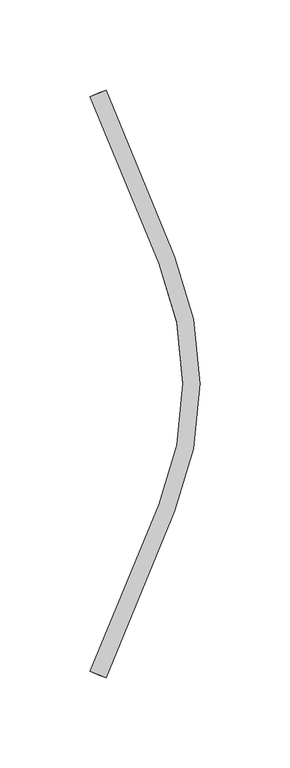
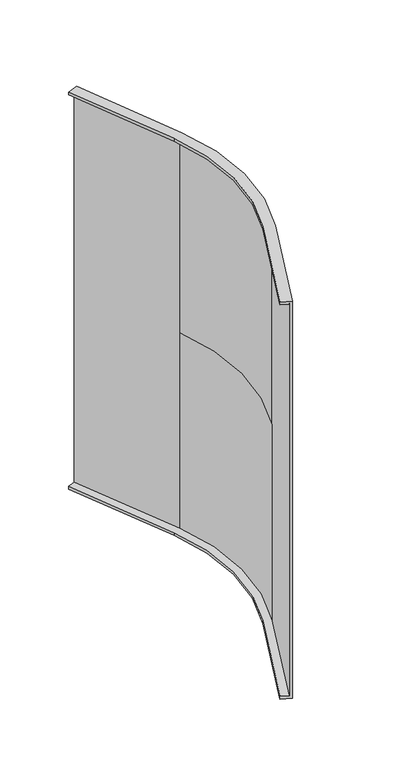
"""IFC4 building model written with IfcOpenShell, lengths in millimetres: cable carrier fitting geometry, CCT_Hyperline_FBTR-ERS45-CVR Крышка на угол 45° внешний (вниз) для оптического лотка : Крышка на угол 45° внешний (вниз) для оптического лотка."""

import ifcopenshell
import ifcopenshell.guid

model = None  # the IFC model being written
_history = None  # IfcOwnerHistory: only IFC2X3 demands one
_inside = {}  # id of a spatial element -> (the spatial element, [elements in it])
_under = {}  # id of a project, library or spatial element -> (it, [spatial elements below it])
_declared = {}  # id of a project -> (the project, [libraries it declares])
_typed = {}  # id of a type object -> (the type object, [elements of that type])
_made_of = {}  # id of a material, layer set ... -> (it, [elements and type objects made of it])


def new_model(schema):
    """Start an empty IFC model of exactly this schema.

    Asked for "IFC4X3", IfcOpenShell would pick the latest addendum, in which some entities
    have other attributes; the version numbers below select the first issue.
    IFC2X3 requires an IfcOwnerHistory on every rooted entity: one is made here for all.
    """
    global model, _history
    if schema == "IFC4X3":
        model = ifcopenshell.file(schema_version=(4, 3, 0, 0))
    else:
        model = ifcopenshell.file(schema=schema)
    _inside.clear()
    _under.clear()
    _declared.clear()
    _typed.clear()
    _made_of.clear()
    _history = None
    if model.schema == "IFC2X3":
        org = make("IfcOrganization", Name="unknown")
        user = make(
            "IfcPersonAndOrganization",
            ThePerson=make("IfcPerson", FamilyName="unknown"),
            TheOrganization=org,
        )
        app = make(
            "IfcApplication",
            ApplicationDeveloper=org,
            Version="unknown",
            ApplicationFullName="unknown",
            ApplicationIdentifier="unknown",
        )
        _history = make(
            "IfcOwnerHistory",
            OwningUser=user,
            OwningApplication=app,
            ChangeAction="ADDED",
            CreationDate=0,
        )
    return model


def make(cls, **values):
    """One entity of the class cls with the attributes given. An attribute that is None is left unset."""
    return model.create_entity(
        cls, **{name: value for name, value in values.items() if value is not None}
    )


def rooted(cls, **values):
    """An entity with a GlobalId (a new one), such as an element, a storey or a relation."""
    return make(cls, GlobalId=ifcopenshell.guid.new(), OwnerHistory=_history, **values)


def si_unit(unit_type, name, prefix=None):
    """IfcSIUnit, for example si_unit("LENGTHUNIT", "METRE", prefix="MILLI")."""
    return make("IfcSIUnit", UnitType=unit_type, Prefix=prefix, Name=name)


def assignment(units):
    """IfcUnitAssignment: the units of a project."""
    return None if units is None else make("IfcUnitAssignment", Units=units)


def point(xyz):
    """IfcCartesianPoint."""
    return None if xyz is None else make("IfcCartesianPoint", Coordinates=xyz)


def direction(xyz):
    """IfcDirection."""
    return None if xyz is None else make("IfcDirection", DirectionRatios=xyz)


def frame(location, z_axis=None, x_axis=None):
    """IfcAxis2Placement3D, a coordinate frame: its origin and axes. An axis left out is left unset."""
    return make(
        "IfcAxis2Placement3D",
        Location=point(location),
        Axis=direction(z_axis),
        RefDirection=direction(x_axis),
    )


def origin():
    """The frame at (0, 0, 0) with its axes left unset."""
    return frame((0.0, 0.0, 0.0))


def place(relative_to, where):
    """IfcLocalPlacement: puts the frame where relative to a parent placement (None: the world)."""
    return make(
        "IfcLocalPlacement", PlacementRelTo=relative_to, RelativePlacement=where
    )


def context(
    kind, dimensions, precision=None, world=None, true_north=None, identifier=None
):
    """IfcGeometricRepresentationContext, for example the 3D "Model" context."""
    return make(
        "IfcGeometricRepresentationContext",
        ContextIdentifier=identifier,
        ContextType=kind,
        CoordinateSpaceDimension=dimensions,
        Precision=precision,
        WorldCoordinateSystem=world,
        TrueNorth=true_north,
    )


def project(units=None, contexts=None):
    """IfcProject with its units and contexts."""
    return rooted(
        "IfcProject",
        Name="project",
        RepresentationContexts=contexts,
        UnitsInContext=assignment(units),
    )


def spatial(cls, under=None, at=None, **own):
    """A site, building, storey or space (cls), placed at a placement, below another one or the project."""
    s = rooted(cls, ObjectPlacement=at, **own)
    if under is not None:
        _under.setdefault(under.id(), (under, []))[1].append(s)
    return s


def polyline(points):
    """IfcPolyline through the points."""
    return make("IfcPolyline", Points=[point(p) for p in points])


def circle_curve(where, radius):
    """IfcCircle in the frame where."""
    return make("IfcCircle", Position=where, Radius=radius)


def shape(context_of_items, identifier, shape_type, items):
    """IfcShapeRepresentation: the items that make up one representation, for example the "Body"."""
    return make(
        "IfcShapeRepresentation",
        ContextOfItems=context_of_items,
        RepresentationIdentifier=identifier,
        RepresentationType=shape_type,
        Items=items,
    )


def source(mapping_origin, context_of_items, identifier, shape_type, items):
    """IfcRepresentationMap: a shape defined once, which mapped items show again and again."""
    return make(
        "IfcRepresentationMap",
        MappingOrigin=mapping_origin,
        MappedRepresentation=shape(context_of_items, identifier, shape_type, items),
    )


def transform(
    local_origin,
    x_axis=None,
    y_axis=None,
    z_axis=None,
    scale=None,
    scale2=None,
    scale3=None,
    uniform=True,
):
    """IfcCartesianTransformationOperator3D, or its non-uniform kind. x_axis, y_axis, z_axis: its Axis1, 2, 3."""
    if uniform:
        return make(
            "IfcCartesianTransformationOperator3D",
            Axis1=direction(x_axis),
            Axis2=direction(y_axis),
            LocalOrigin=point(local_origin),
            Scale=scale,
            Axis3=direction(z_axis),
        )
    return make(
        "IfcCartesianTransformationOperator3DnonUniform",
        Axis1=direction(x_axis),
        Axis2=direction(y_axis),
        LocalOrigin=point(local_origin),
        Scale=scale,
        Axis3=direction(z_axis),
        Scale2=scale2,
        Scale3=scale3,
    )


def mapped(mapping_source, mapping_target):
    """IfcMappedItem: shows the shape of a source again, moved by a transform."""
    return make(
        "IfcMappedItem", MappingSource=mapping_source, MappingTarget=mapping_target
    )


def made_of(thing, what):
    """Note that an element or type object is made of a material, layer set ...; save() writes the relation."""
    if what is not None:
        _made_of.setdefault(what.id(), (what, []))[1].append(thing)
    return thing


def element(
    cls,
    number,
    at=None,
    inside=None,
    cuts=None,
    type_object=None,
    material=None,
    context=None,
    identifier="Body",
    shape_type=None,
    held_by="IfcProductDefinitionShape",
    body=None,
    shapes=None,
    **own,
):
    """One element of the class cls, such as IfcWall. Its Tag is "e" and its number.

    at: its placement. inside: the storey or other place that contains it. cuts: it is an
    opening in that element (IfcRelVoidsElement). A single representation is given by context,
    identifier, shape_type and body (its items); several are given by shapes. held_by: the class
    of the entity that holds the representations. save() writes the other relations.
    """
    e = rooted(cls, Tag="e%d" % number, ObjectPlacement=at, **own)
    if body is not None:
        shapes = [shape(context, identifier, shape_type, body)]
    if shapes is not None:
        e.Representation = make(held_by, Representations=shapes)
    if inside is not None:
        _inside.setdefault(inside.id(), (inside, []))[1].append(e)
    if cuts is not None:
        rooted(
            "IfcRelVoidsElement", RelatingBuildingElement=cuts, RelatedOpeningElement=e
        )
    if type_object is not None:
        _typed.setdefault(type_object.id(), (type_object, []))[1].append(e)
    return made_of(e, material)


def aggregate(whole, parts):
    """IfcRelAggregates: a whole, such as a stair, and the parts it consists of."""
    return rooted("IfcRelAggregates", RelatingObject=whole, RelatedObjects=parts)


def save(model, path):
    """Write the relations noted so far, then the file.

    IfcRelAggregates (storeys below a building ...), IfcRelContainedInSpatialStructure (elements
    in a storey), IfcRelDefinesByType, IfcRelAssociatesMaterial and IfcRelDeclares: one each for
    every whole, place, type object, material and project.
    """
    for whole, parts in _under.values():
        aggregate(whole, parts)
    for where, things in _inside.values():
        rooted(
            "IfcRelContainedInSpatialStructure",
            RelatedElements=things,
            RelatingStructure=where,
        )
    for kind, things in _typed.values():
        rooted("IfcRelDefinesByType", RelatedObjects=things, RelatingType=kind)
    for what, things in _made_of.values():
        rooted("IfcRelAssociatesMaterial", RelatedObjects=things, RelatingMaterial=what)
    for by, libraries in _declared.values():
        rooted("IfcRelDeclares", RelatingContext=by, RelatedDefinitions=libraries)
    model.write(path)


def plane_surface(at):
    """IfcPlane: the flat surface through the origin of the frame at, square to its z axis."""
    return make("IfcPlane", Position=at)


def cylinder_surface(at, radius):
    """IfcCylindricalSurface: all points at the distance radius from the z axis of the frame at."""
    return make("IfcCylindricalSurface", Position=at, Radius=radius)


def revolved_surface(curve, axis_point, axis_direction):
    """IfcSurfaceOfRevolution: the curve turned about the line through axis_point along axis_direction."""
    return make(
        "IfcSurfaceOfRevolution",
        SweptCurve=make("IfcArbitraryOpenProfileDef", ProfileType="CURVE", Curve=curve),
        AxisPosition=make("IfcAxis1Placement", Location=point(axis_point), Axis=direction(axis_direction)),
    )


def advanced_brep(points, edges, surfaces, faces):
    """IfcAdvancedBrep: a solid bounded by faces that lie on surfaces and meet in shared edges.

    An edge is (start, end): straight between two places in points (the first is 0);
    or (start, end, curve); or (start, end, curve, False) where it runs against its curve.
    A face is (place in surfaces, loops), or (place, loops, False) where it looks against
    its surface's normal. A loop lists edges by number (the first is 1), with a minus sign
    where the edge is run from its end to its start. The first loop is the outer one.
    """
    corners = [point(p) for p in points]
    vertices = [make("IfcVertexPoint", VertexGeometry=c) for c in corners]
    made = []
    for start, end, *more in edges:
        made.append(
            make(
                "IfcEdgeCurve",
                EdgeStart=vertices[start],
                EdgeEnd=vertices[end],
                EdgeGeometry=more[0] if more else make("IfcPolyline", Points=[corners[start], corners[end]]),
                SameSense=more[1] if len(more) > 1 else True,
            )
        )
    hull = []
    for where, loops, *sense in faces:
        bounds = []
        for j, loop in enumerate(loops):
            ring = [make("IfcOrientedEdge", EdgeElement=made[abs(k) - 1], Orientation=k > 0) for k in loop]
            bounds.append(
                make(
                    "IfcFaceOuterBound" if j == 0 else "IfcFaceBound",
                    Bound=make("IfcEdgeLoop", EdgeList=ring),
                    Orientation=True,
                )
            )
        hull.append(make("IfcAdvancedFace", Bounds=bounds, FaceSurface=surfaces[where], SameSense=sense[0] if sense else True))
    return make("IfcAdvancedBrep", Outer=make("IfcClosedShell", CfsFaces=hull))


def cable_carrier_fitting_d9fc4f65(model_context):
    return source(origin(), model_context, "Body", "AdvancedBrep", [
        advanced_brep(
        [(106.4671567, 150.6353776, 180.0), (100.0, 147.9565936, 180.0), (100.0, 147.9565936, 182.54), (108.8138107, 151.6073935, 182.54), (108.8138107, 151.6073935, -182.54), (100.0, 147.9565936, -182.54), (100.0, 147.9565936, -180.0), (106.4671567, 150.6353776, -180.0), (138.2683432, 55.5686403, -180.0), (138.2683432, -78.370561, -180.0), (100.0, -170.7585143, -180.0), (106.4671567, -173.4372983, -180.0), (144.7355, -81.049345, -180.0), (144.7355, 58.2474243, -180.0), (138.2683432, 55.5686403, -182.54), (147.082154, 59.2194402, -182.54), (147.082154, -82.021361, -182.54), (108.8138107, -174.4093142, -182.54), (100.0, -170.7585143, -182.54), (138.2683432, -78.370561, -182.54), (147.082154, 59.2194402, 182.54), (147.082154, 59.2194402, 0.0), (144.7355, 58.2474243, 0.0), (144.7355, 58.2474243, 180.0), (147.082154, -82.021361, 0.0), (144.7355, -81.049345, 0.0), (108.8138107, -174.4093142, 182.54), (100.0, -170.7585143, 182.54), (100.0, -170.7585143, 180.0), (106.4671567, -173.4372983, 180.0), (147.082154, -82.021361, 182.54), (144.7355, -81.049345, 180.0), (138.2683432, -78.370561, 180.0), (138.2683432, 55.5686403, 180.0), (138.2683432, 55.5686403, 182.54), (138.2683432, -78.370561, 182.54)],
        [
            (0, 1),
            (1, 2),
            (2, 3),
            (3, 4),
            (4, 5),
            (5, 6),
            (6, 7),
            (7, 0),
            (6, 8),
            (8, 9, circle_curve(frame((-23.410575, -11.4009604, -180.0), z_axis=(0.0, 0.0, -1.0), x_axis=(0.9238795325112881, 0.38268343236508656, 0.0)), 175.0)),
            (9, 10),
            (10, 11),
            (11, 12),
            (12, 13, circle_curve(frame((-23.410575, -11.4009604, -180.0), z_axis=(0.0, 0.0, 1.0), x_axis=(0.9238795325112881, 0.38268343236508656, 0.0)), 182.0)),
            (13, 7),
            (5, 14),
            (14, 8),
            (4, 15),
            (15, 16, circle_curve(frame((-23.410575, -11.4009604, -182.54), z_axis=(0.0, 0.0, -1.0), x_axis=(0.9238795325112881, 0.38268343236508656, 0.0)), 184.54)),
            (16, 17),
            (17, 18),
            (18, 19),
            (19, 14, circle_curve(frame((-23.410575, -11.4009604, -182.54), z_axis=(0.0, 0.0, 1.0), x_axis=(0.9238795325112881, 0.38268343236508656, 0.0)), 175.0)),
            (3, 20),
            (20, 21),
            (21, 15),
            (13, 22),
            (22, 23),
            (23, 0),
            (19, 9),
            (21, 24, circle_curve(frame((-23.410575, -11.4009604, 0.0), z_axis=(0.0, 0.0, -1.0), x_axis=(0.9238795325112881, 0.38268343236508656, 0.0)), 184.54)),
            (24, 16),
            (12, 25),
            (25, 22, circle_curve(frame((-23.410575, -11.4009604, 0.0), z_axis=(0.0, 0.0, 1.0), x_axis=(0.9238795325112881, 0.38268343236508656, 0.0)), 182.0)),
            (10, 18),
            (17, 26),
            (26, 27),
            (27, 28),
            (28, 29),
            (29, 11),
            (24, 30),
            (30, 26),
            (29, 31),
            (31, 25),
            (23, 31, circle_curve(frame((-23.410575, -11.4009604, 180.0), z_axis=(0.0, 0.0, -1.0), x_axis=(0.9238795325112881, 0.3826834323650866, 0.0)), 182.0)),
            (28, 32),
            (32, 33, circle_curve(frame((-23.410575, -11.4009604, 180.0), z_axis=(0.0, 0.0, 1.0), x_axis=(0.9238795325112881, 0.3826834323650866, 0.0)), 175.0)),
            (33, 1),
            (33, 34),
            (34, 2),
            (34, 35, circle_curve(frame((-23.410575, -11.4009604, 182.54), z_axis=(0.0, 0.0, -1.0), x_axis=(0.9238795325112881, 0.3826834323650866, 0.0)), 175.0)),
            (35, 27),
            (30, 20, circle_curve(frame((-23.410575, -11.4009604, 182.54), z_axis=(0.0, 0.0, 1.0), x_axis=(0.9238795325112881, 0.3826834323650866, 0.0)), 184.54)),
            (32, 35),
        ],
        [
            plane_surface(frame((104.6193977, 149.8700107, -55.0), z_axis=(-0.38268343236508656, 0.9238795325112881, 0.0), x_axis=(0.0, 0.0, 1.0))),
            plane_surface(frame((100.0, 147.9565936, -180.0), z_axis=(0.0, 0.0, 1.0), x_axis=(0.3826834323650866, -0.9238795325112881, 0.0))),
            plane_surface(frame((100.0, 147.9565936, -182.54), z_axis=(-0.9238795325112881, -0.3826834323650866, 0.0), x_axis=(0.3826834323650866, -0.9238795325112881, 0.0))),
            plane_surface(frame((108.8138107, 151.6073935, -182.54), z_axis=(0.0, 0.0, -1.0000000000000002), x_axis=(0.38268343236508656, -0.9238795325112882, 0.0))),
            plane_surface(frame((108.8138107, 151.6073935, 0.0), z_axis=(0.9238795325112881, 0.3826834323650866, 0.0), x_axis=(0.3826834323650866, -0.9238795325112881, 0.0))),
            plane_surface(frame((106.4671567, 150.6353776, -180.0), z_axis=(-0.9238795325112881, -0.38268343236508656, 0.0), x_axis=(0.38268343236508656, -0.9238795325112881, 0.0))),
            revolved_surface(polyline([(138.26834318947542, 55.568640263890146, -182.54), (138.26834318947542, 55.568640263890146, -180.0)]), (-23.410575, -11.4009604, -55.0), (0.0, 0.0, -1.0)),
            cylinder_surface(frame((-23.410575, -11.4009604, -55.0), z_axis=(0.0, 0.0, -1.0), x_axis=(0.9238795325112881, 0.38268343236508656, 0.0)), 184.54),
            revolved_surface(polyline([(144.73549991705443, 58.24742429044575, -180.0), (144.73549991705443, 58.24742429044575, 0.0)]), (-23.410575, -11.4009604, -55.0), (0.0, 0.0, -1.0)),
            plane_surface(frame((104.6193977, -172.6719314, -55.0), z_axis=(-0.3826834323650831, -0.9238795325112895, 0.0), x_axis=(0.0, 0.0, 1.0))),
            plane_surface(frame((138.2683432, -78.370561, -182.54), z_axis=(-0.9238795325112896, 0.382683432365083, 0.0), x_axis=(-0.382683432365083, -0.9238795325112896, 0.0))),
            plane_surface(frame((147.082154, -82.021361, 0.0), z_axis=(0.9238795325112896, -0.38268343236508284, 0.0), x_axis=(-0.38268343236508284, -0.9238795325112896, 0.0))),
            plane_surface(frame((144.7355, -81.049345, -180.0), z_axis=(-0.9238795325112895, 0.3826834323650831, 0.0), x_axis=(-0.3826834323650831, -0.9238795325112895, 0.0))),
            plane_surface(frame((106.4671567, 150.6353776, 180.0), z_axis=(0.0, 0.0, -1.0), x_axis=(0.38268343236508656, -0.9238795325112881, 0.0))),
            plane_surface(frame((100.0, 147.9565936, 180.0), z_axis=(-0.9238795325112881, -0.38268343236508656, 0.0), x_axis=(0.38268343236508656, -0.9238795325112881, 0.0))),
            plane_surface(frame((100.0, 147.9565936, 182.54), z_axis=(0.0, 0.0, 1.0), x_axis=(0.38268343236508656, -0.9238795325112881, 0.0))),
            revolved_surface(polyline([(138.26834318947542, 55.56864026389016, 180.0), (138.26834318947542, 55.56864026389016, 182.54)]), (-23.410575, -11.4009604, 55.0), (0.0, 0.0, -1.0)),
            cylinder_surface(frame((-23.410575, -11.4009604, 55.0), z_axis=(0.0, 0.0, -1.0), x_axis=(0.9238795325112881, 0.3826834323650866, 0.0)), 184.54),
            revolved_surface(polyline([(144.73549991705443, 58.247424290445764, 0.0), (144.73549991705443, 58.247424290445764, 180.0)]), (-23.410575, -11.4009604, 55.0), (0.0, 0.0, -1.0)),
            plane_surface(frame((138.2683432, -78.370561, 180.0), z_axis=(-0.9238795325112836, 0.3826834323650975, 0.0), x_axis=(-0.3826834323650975, -0.9238795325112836, 0.0))),
        ],
        [
            (0, [[1, 2, 3, 4, 5, 6, 7, 8]]),
            (1, [[-7, 9, 10, 11, 12, 13, 14, 15]]),
            (2, [[-6, 16, 17, -9]]),
            (3, [[-5, 18, 19, 20, 21, 22, 23, -16]]),
            (4, [[-4, 24, 25, 26, -18]]),
            (5, [[-8, -15, 27, 28, 29]]),
            (6, [[-10, -17, -23, 30]]),
            (7, [[-19, -26, 31, 32]]),
            (8, [[-14, 33, 34, -27]]),
            (9, [[-12, 35, -21, 36, 37, 38, 39, 40]]),
            (10, [[-11, -30, -22, -35]]),
            (11, [[-36, -20, -32, 41, 42]]),
            (12, [[-13, -40, 43, 44, -33]]),
            (13, [[-1, -29, 45, -43, -39, 46, 47, 48]]),
            (14, [[-2, -48, 49, 50]]),
            (15, [[-3, -50, 51, 52, -37, -42, 53, -24]]),
            (16, [[-47, 54, -51, -49]]),
            (17, [[-53, -41, -31, -25]]),
            (18, [[-45, -28, -34, -44]]),
            (19, [[-46, -38, -52, -54]]),
        ],
    ),
    ])


if __name__ == "__main__":
    model = new_model("IFC4")
    model_context = context("Model", 3, world=origin())
    ifc_project = project(units=[si_unit("LENGTHUNIT", "METRE", prefix="MILLI")], contexts=[model_context])
    site = spatial("IfcSite", under=ifc_project)
    building = spatial("IfcBuilding", under=site)
    placement = place(None, origin())
    cable_carrier_fitting_shape = cable_carrier_fitting_d9fc4f65(model_context)
    element("IfcCableCarrierFitting", 1, ObjectType="CCT_Hyperline_FBTR-ERS45-CVR Крышка на угол 45° внешний (вниз) для оптического лотка : Крышка на угол 45° внешний (вниз) для оптического лотка", at=placement, inside=building, context=model_context, shape_type="MappedRepresentation", body=[
        mapped(cable_carrier_fitting_shape, transform((0.0, 0.0, 0.0), x_axis=(1.0, 0.0, 0.0), y_axis=(0.0, 1.0, 0.0), z_axis=(0.0, 0.0, 1.0))),
    ])
    save(model, "model.ifc")
